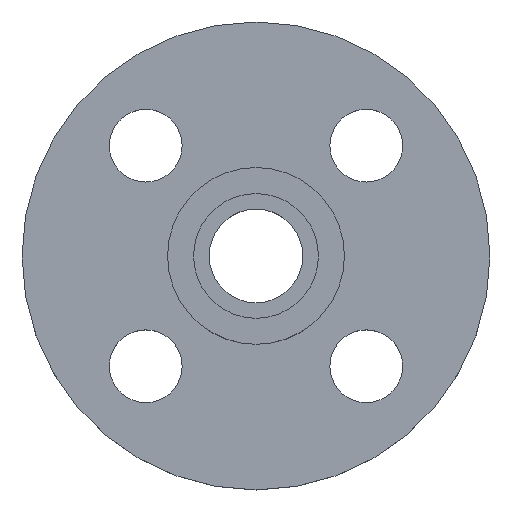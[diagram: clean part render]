
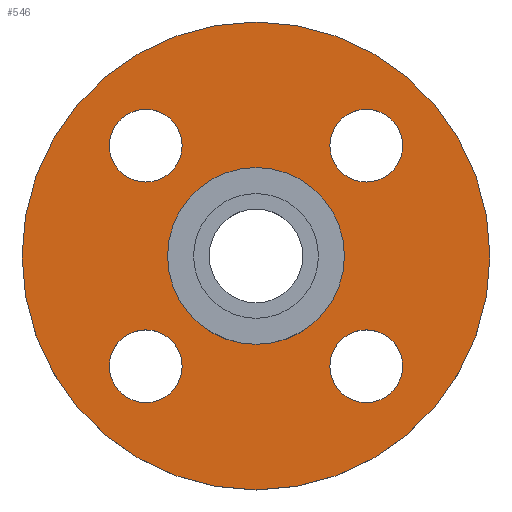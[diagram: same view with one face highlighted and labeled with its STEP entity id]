
A CAD part, top view. The second image highlights one B-rep face of the part: STEP entity #546.
In plain terms, the highlighted planar face has unit normal (0, 0, 1).
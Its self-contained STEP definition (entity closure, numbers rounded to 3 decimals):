
#1 = CARTESIAN_POINT ( 'NONE',  ( 28.213, -21.213, -4.5 ) ) ;
#6 = CARTESIAN_POINT ( 'NONE',  ( -45., 0., -4.5 ) ) ;
#10 = CARTESIAN_POINT ( 'NONE',  ( -14.213, -21.213, -4.5 ) ) ;
#14 = EDGE_LOOP ( 'NONE', ( #48, #97 ) ) ;
#16 = CIRCLE ( 'NONE', #611, 17. ) ;
#19 = VERTEX_POINT ( 'NONE', #10 ) ;
#28 = VERTEX_POINT ( 'NONE', #6 ) ;
#33 = CIRCLE ( 'NONE', #620, 45. ) ;
#36 = VERTEX_POINT ( 'NONE', #1 ) ;
#39 = EDGE_LOOP ( 'NONE', ( #161, #164 ) ) ;
#40 = VERTEX_POINT ( 'NONE', #279 ) ;
#45 = EDGE_LOOP ( 'NONE', ( #188, #158 ) ) ;
#46 = VERTEX_POINT ( 'NONE', #608 ) ;
#47 = AXIS2_PLACEMENT_3D ( 'NONE', #638, #640, #641 ) ;
#48 = ORIENTED_EDGE ( 'NONE', *, *, #360, .T. ) ;
#57 = VERTEX_POINT ( 'NONE', #88 ) ;
#60 = VERTEX_POINT ( 'NONE', #106 ) ;
#85 = EDGE_LOOP ( 'NONE', ( #95, #89 ) ) ;
#88 = CARTESIAN_POINT ( 'NONE',  ( -28.213, -21.213, -4.5 ) ) ;
#89 = ORIENTED_EDGE ( 'NONE', *, *, #170, .T. ) ;
#95 = ORIENTED_EDGE ( 'NONE', *, *, #573, .T. ) ;
#96 = AXIS2_PLACEMENT_3D ( 'NONE', #276, #285, #286 ) ;
#97 = ORIENTED_EDGE ( 'NONE', *, *, #201, .T. ) ;
#99 = ORIENTED_EDGE ( 'NONE', *, *, #456, .T. ) ;
#100 = ORIENTED_EDGE ( 'NONE', *, *, #293, .T. ) ;
#101 = EDGE_LOOP ( 'NONE', ( #100, #127 ) ) ;
#104 = CIRCLE ( 'NONE', #96, 7. ) ;
#105 = VERTEX_POINT ( 'NONE', #479 ) ;
#106 = CARTESIAN_POINT ( 'NONE',  ( 14.213, -21.213, -4.5 ) ) ;
#107 = EDGE_CURVE ( 'NONE', #165, #192, #16, .T. ) ;
#112 = EDGE_LOOP ( 'NONE', ( #99, #160 ) ) ;
#113 = VERTEX_POINT ( 'NONE', #605 ) ;
#126 = AXIS2_PLACEMENT_3D ( 'NONE', #395, #228, #166 ) ;
#127 = ORIENTED_EDGE ( 'NONE', *, *, #322, .T. ) ;
#137 = CIRCLE ( 'NONE', #570, 7. ) ;
#158 = ORIENTED_EDGE ( 'NONE', *, *, #107, .T. ) ;
#160 = ORIENTED_EDGE ( 'NONE', *, *, #477, .T. ) ;
#161 = ORIENTED_EDGE ( 'NONE', *, *, #307, .F. ) ;
#164 = ORIENTED_EDGE ( 'NONE', *, *, #575, .F. ) ;
#165 = VERTEX_POINT ( 'NONE', #420 ) ;
#166 = DIRECTION ( 'NONE',  ( 1., 0., 0. ) ) ;
#170 = EDGE_CURVE ( 'NONE', #113, #40, #314, .T. ) ;
#188 = ORIENTED_EDGE ( 'NONE', *, *, #607, .T. ) ;
#192 = VERTEX_POINT ( 'NONE', #588 ) ;
#196 = VERTEX_POINT ( 'NONE', #553 ) ;
#201 = EDGE_CURVE ( 'NONE', #57, #19, #137, .T. ) ;
#228 = DIRECTION ( 'NONE',  ( 0., 0., -1. ) ) ;
#276 = CARTESIAN_POINT ( 'NONE',  ( -21.213, 21.213, -4.5 ) ) ;
#279 = CARTESIAN_POINT ( 'NONE',  ( -14.213, 21.213, -4.5 ) ) ;
#285 = DIRECTION ( 'NONE',  ( 0., 0., -1. ) ) ;
#286 = DIRECTION ( 'NONE',  ( 1., 0., 0. ) ) ;
#293 = EDGE_CURVE ( 'NONE', #105, #46, #554, .T. ) ;
#296 = CARTESIAN_POINT ( 'NONE',  ( 0., 0., -4.5 ) ) ;
#298 = DIRECTION ( 'NONE',  ( 0., 0., -1. ) ) ;
#300 = DIRECTION ( 'NONE',  ( -1., 0., 0. ) ) ;
#307 = EDGE_CURVE ( 'NONE', #196, #28, #33, .T. ) ;
#308 = AXIS2_PLACEMENT_3D ( 'NONE', #496, #492, #491 ) ;
#314 = CIRCLE ( 'NONE', #126, 7. ) ;
#322 = EDGE_CURVE ( 'NONE', #46, #105, #375, .T. ) ;
#346 = CIRCLE ( 'NONE', #592, 7. ) ;
#360 = EDGE_CURVE ( 'NONE', #19, #57, #595, .T. ) ;
#364 = CARTESIAN_POINT ( 'NONE',  ( 21.213, 21.213, -4.5 ) ) ;
#366 = DIRECTION ( 'NONE',  ( 0., 0., -1. ) ) ;
#367 = DIRECTION ( 'NONE',  ( 1., 0., 0. ) ) ;
#375 = CIRCLE ( 'NONE', #376, 7. ) ;
#376 = AXIS2_PLACEMENT_3D ( 'NONE', #418, #422, #423 ) ;
#392 = CARTESIAN_POINT ( 'NONE',  ( 0., 0., -4.5 ) ) ;
#395 = CARTESIAN_POINT ( 'NONE',  ( -21.213, 21.213, -4.5 ) ) ;
#397 = DIRECTION ( 'NONE',  ( 0., 0., -1. ) ) ;
#399 = DIRECTION ( 'NONE',  ( -1., 0., 0. ) ) ;
#404 = CIRCLE ( 'NONE', #415, 17. ) ;
#415 = AXIS2_PLACEMENT_3D ( 'NONE', #416, #421, #429 ) ;
#416 = CARTESIAN_POINT ( 'NONE',  ( 0., 0., -4.5 ) ) ;
#418 = CARTESIAN_POINT ( 'NONE',  ( 21.213, 21.213, -4.5 ) ) ;
#420 = CARTESIAN_POINT ( 'NONE',  ( 17., 0., -4.5 ) ) ;
#421 = DIRECTION ( 'NONE',  ( 0., 0., -1. ) ) ;
#422 = DIRECTION ( 'NONE',  ( 0., 0., -1. ) ) ;
#423 = DIRECTION ( 'NONE',  ( 1., 0., 0. ) ) ;
#428 = CARTESIAN_POINT ( 'NONE',  ( -21.213, -21.213, -4.5 ) ) ;
#429 = DIRECTION ( 'NONE',  ( -1., 0., 0. ) ) ;
#430 = DIRECTION ( 'NONE',  ( 0., 0., -1. ) ) ;
#433 = DIRECTION ( 'NONE',  ( 1., 0., 0. ) ) ;
#456 = EDGE_CURVE ( 'NONE', #36, #60, #346, .T. ) ;
#477 = EDGE_CURVE ( 'NONE', #60, #36, #487, .T. ) ;
#479 = CARTESIAN_POINT ( 'NONE',  ( 28.213, 21.213, -4.5 ) ) ;
#485 = CARTESIAN_POINT ( 'NONE',  ( 21.213, -21.213, -4.5 ) ) ;
#486 = DIRECTION ( 'NONE',  ( 0., 0., -1. ) ) ;
#487 = CIRCLE ( 'NONE', #308, 7. ) ;
#488 = DIRECTION ( 'NONE',  ( 1., 0., 0. ) ) ;
#491 = DIRECTION ( 'NONE',  ( 1., 0., 0. ) ) ;
#492 = DIRECTION ( 'NONE',  ( 0., 0., -1. ) ) ;
#496 = CARTESIAN_POINT ( 'NONE',  ( 21.213, -21.213, -4.5 ) ) ;
#502 = CARTESIAN_POINT ( 'NONE',  ( 0., 0., -4.5 ) ) ;
#507 = CIRCLE ( 'NONE', #567, 45. ) ;
#538 = DIRECTION ( 'NONE',  ( 1., 0., 0. ) ) ;
#546 = ADVANCED_FACE ( 'NONE', ( #630, #632, #633, #634, #613, #636 ), #637, .T. ) ;
#551 = DIRECTION ( 'NONE',  ( 0., 0., -1. ) ) ;
#552 = CARTESIAN_POINT ( 'NONE',  ( -21.213, -21.213, -4.5 ) ) ;
#553 = CARTESIAN_POINT ( 'NONE',  ( 45., 0., -4.5 ) ) ;
#554 = CIRCLE ( 'NONE', #602, 7. ) ;
#556 = DIRECTION ( 'NONE',  ( 0., 0., -1. ) ) ;
#563 = DIRECTION ( 'NONE',  ( -1., 0., 0. ) ) ;
#567 = AXIS2_PLACEMENT_3D ( 'NONE', #296, #298, #300 ) ;
#570 = AXIS2_PLACEMENT_3D ( 'NONE', #552, #551, #538 ) ;
#573 = EDGE_CURVE ( 'NONE', #40, #113, #104, .T. ) ;
#575 = EDGE_CURVE ( 'NONE', #28, #196, #507, .T. ) ;
#576 = AXIS2_PLACEMENT_3D ( 'NONE', #428, #430, #433 ) ;
#588 = CARTESIAN_POINT ( 'NONE',  ( -17., 0., -4.5 ) ) ;
#592 = AXIS2_PLACEMENT_3D ( 'NONE', #485, #486, #488 ) ;
#595 = CIRCLE ( 'NONE', #576, 7. ) ;
#602 = AXIS2_PLACEMENT_3D ( 'NONE', #364, #366, #367 ) ;
#605 = CARTESIAN_POINT ( 'NONE',  ( -28.213, 21.213, -4.5 ) ) ;
#607 = EDGE_CURVE ( 'NONE', #192, #165, #404, .T. ) ;
#608 = CARTESIAN_POINT ( 'NONE',  ( 14.213, 21.213, -4.5 ) ) ;
#611 = AXIS2_PLACEMENT_3D ( 'NONE', #502, #556, #563 ) ;
#613 = FACE_BOUND ( 'NONE', #45, .T. ) ;
#620 = AXIS2_PLACEMENT_3D ( 'NONE', #392, #397, #399 ) ;
#630 = FACE_BOUND ( 'NONE', #112, .T. ) ;
#632 = FACE_BOUND ( 'NONE', #14, .T. ) ;
#633 = FACE_BOUND ( 'NONE', #85, .T. ) ;
#634 = FACE_BOUND ( 'NONE', #101, .T. ) ;
#636 = FACE_OUTER_BOUND ( 'NONE', #39, .T. ) ;
#637 = PLANE ( 'NONE',  #47 ) ;
#638 = CARTESIAN_POINT ( 'NONE',  ( 17., 0., -4.5 ) ) ;
#640 = DIRECTION ( 'NONE',  ( 0., 0., 1. ) ) ;
#641 = DIRECTION ( 'NONE',  ( 1., 0., 0. ) ) ;
